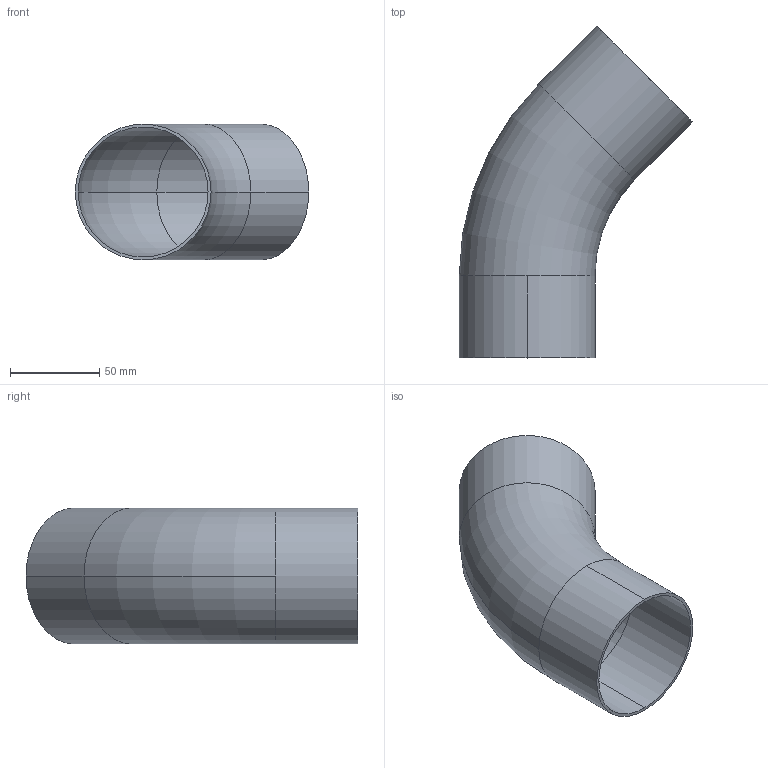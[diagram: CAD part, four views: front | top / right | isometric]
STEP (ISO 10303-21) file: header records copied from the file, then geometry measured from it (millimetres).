
FILE_DESCRIPTION (( 'STEP AP203' ), '1' );
FILE_NAME ('E2KS3.0.STEP', '2018-04-30T15:48:26', ( 'vneprd' ), ( 'Microsoft' ), 'SwSTEP 2.0', 'SolidWorks 2014', '' );
FILE_SCHEMA (( 'CONFIG_CONTROL_DESIGN' ));
Length unit declared in the file: inch
Products named in the file (1): E2KS3.0
Bounding box: 131.06 x 186.33 x 76.2 mm (x, y, z)
Volume: 70304.3 mm3; surface area: 85939.1 mm2
Topology: 1 solids, 1 shells, 14 faces, 32 edges, 20 vertices
Faces by surface type: cylinder 8, torus 4, plane 2
Entity records: 491 total; most frequent: DIRECTION 86, CARTESIAN_POINT 67, ORIENTED_EDGE 64, AXIS2_PLACEMENT_3D 39, EDGE_CURVE 32, CIRCLE 24, VERTEX_POINT 20, EDGE_LOOP 16
